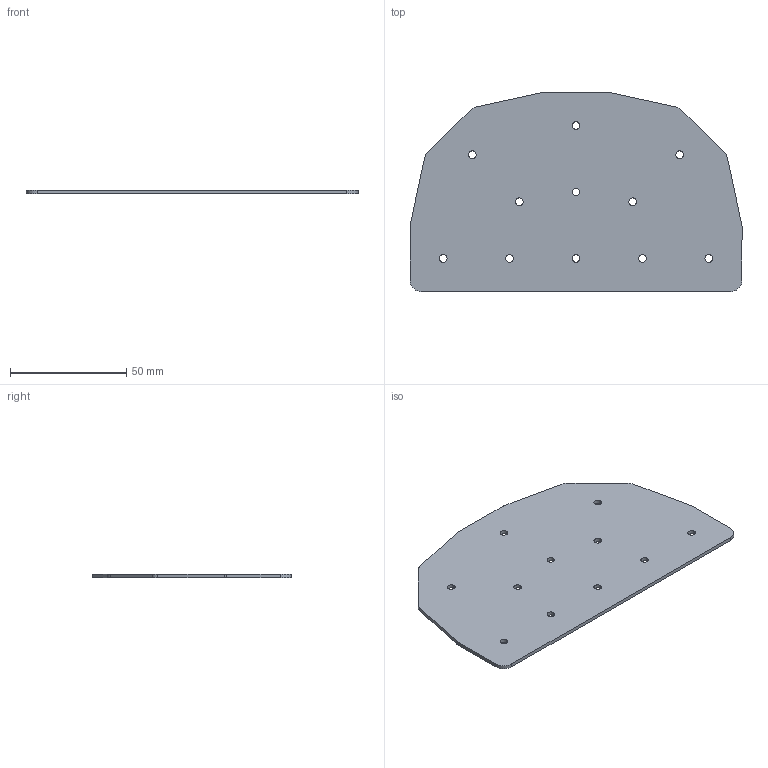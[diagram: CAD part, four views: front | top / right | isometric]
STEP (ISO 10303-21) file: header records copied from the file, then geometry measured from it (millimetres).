
FILE_DESCRIPTION (( 'STEP AP203' ), '1' );
FILE_NAME ('FDPGK-S_1-WTEE.step', '2019-09-11T19:48:40', ( 'ydmin' ), ( '' ), 'SwSTEP 2.0', 'SolidWorks 2017', '' );
FILE_SCHEMA (( 'CONFIG_CONTROL_DESIGN' ));
Length unit declared in the file: inch
Products named in the file (1): FDPGK-S_1-WTEE
Bounding box: 142.88 x 85.72 x 1.59 mm (x, y, z)
Volume: 16998.9 mm3; surface area: 22240.6 mm2
Topology: 1 solids, 1 shells, 44 faces, 126 edges, 84 vertices
Faces by surface type: cylinder 32, plane 12
Entity records: 1597 total; most frequent: DIRECTION 280, CARTESIAN_POINT 255, ORIENTED_EDGE 252, EDGE_CURVE 126, AXIS2_PLACEMENT_3D 109, VERTEX_POINT 84, EDGE_LOOP 66, CIRCLE 64
